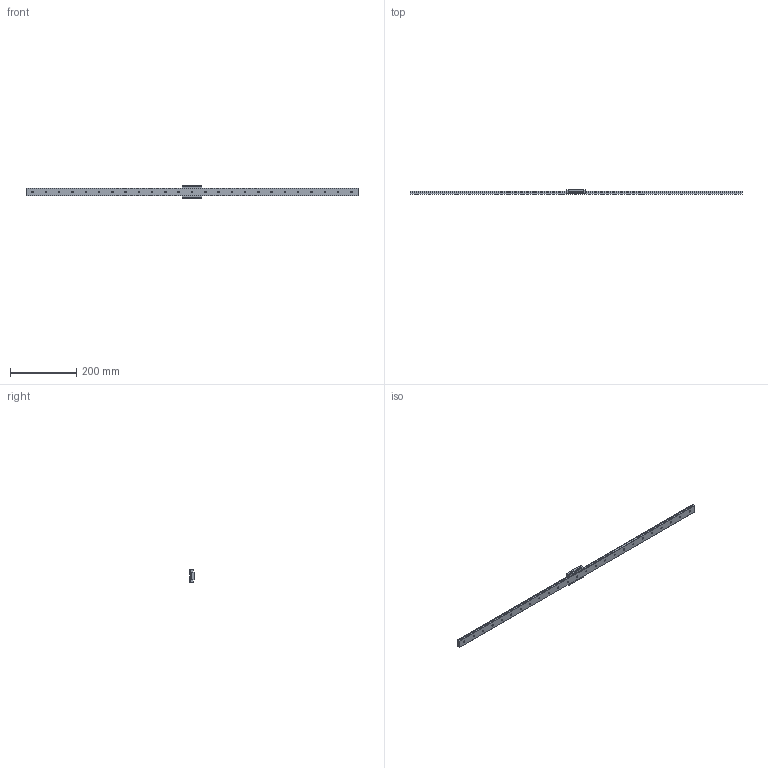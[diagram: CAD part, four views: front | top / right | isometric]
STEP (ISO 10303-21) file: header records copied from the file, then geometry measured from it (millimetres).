
FILE_DESCRIPTION( ( '' ), '1' );
FILE_NAME( 'C:/Users/v3-771-32344/Documents/Website 2016/STEP/SRS12WN1UU1000200 470.25000.stp', '2016-11-10T13:12:18', ( '' ), ( '' ), ' ', ' ', ' ' );
FILE_SCHEMA( ( 'CONFIG_CONTROL_DESIGN' ) );
Length unit declared in the file: millimetre
Products named in the file (2): 1; 2
Bounding box: 1000 x 14 x 40 mm (x, y, z)
Volume: 211395.1 mm3; surface area: 76332.1 mm2
Topology: 2 solids, 2 shells, 271 faces, 688 edges, 444 vertices
Faces by surface type: cylinder 146, plane 109, cone 16
Entity records: 8378 total; most frequent: DIRECTION 1526, CARTESIAN_POINT 1397, ORIENTED_EDGE 1360, EDGE_CURVE 680, AXIS2_PLACEMENT_3D 573, VERTEX_POINT 444, LINE 380, VECTOR 380
